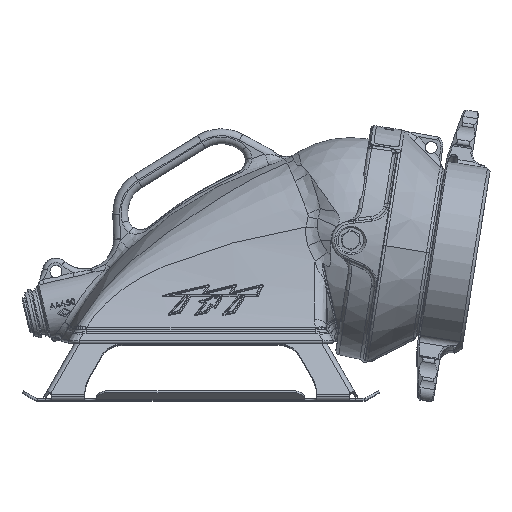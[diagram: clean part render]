
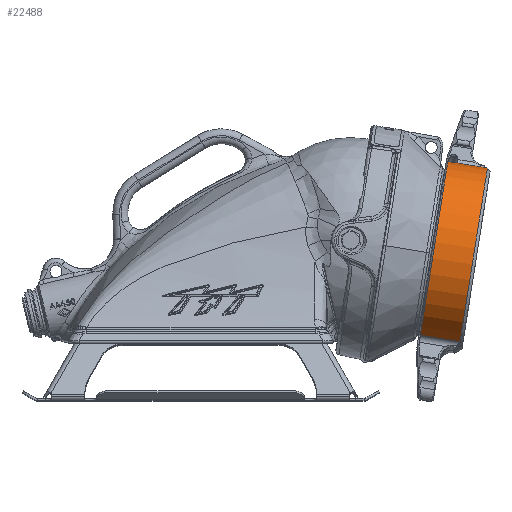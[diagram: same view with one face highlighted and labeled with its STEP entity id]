
A CAD part, top view. The second image highlights one B-rep face of the part: STEP entity #22488.
In plain terms, the highlighted cylindrical face has radius 98.425 mm (diameter 196.85 mm), a partial arc.
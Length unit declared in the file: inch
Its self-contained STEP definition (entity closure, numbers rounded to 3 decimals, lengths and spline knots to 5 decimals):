
#569 = CARTESIAN_POINT ( 'NONE',  ( 2.89257, -3.95, 1.76661 ) ) ;
#1409 = DIRECTION ( 'NONE',  ( -0.15, -0.945, 0.292 ) ) ;
#2496 = LINE ( 'NONE', #58119, #24888 ) ;
#2626 = EDGE_CURVE ( 'NONE', #52628, #91645, #13446, .T. ) ;
#2752 = CARTESIAN_POINT ( 'NONE',  ( 4.25847, 3.23736, -0.296 ) ) ;
#3098 = EDGE_CURVE ( 'NONE', #59598, #41548, #88619, .T. ) ;
#6833 = CARTESIAN_POINT ( 'NONE',  ( 4.23219, 3.24095, -0.30338 ) ) ;
#8261 = AXIS2_PLACEMENT_3D ( 'NONE', #69232, #18702, #1409 ) ;
#9744 = VERTEX_POINT ( 'NONE', #15025 ) ;
#11172 = CARTESIAN_POINT ( 'NONE',  ( 4.26308, 3.23631, -0.30018 ) ) ;
#13446 = CIRCLE ( 'NONE', #13708, 3.875 ) ;
#13708 = AXIS2_PLACEMENT_3D ( 'NONE', #107610, #57020, #90630 ) ;
#13837 = VERTEX_POINT ( 'NONE', #93287 ) ;
#14932 = CARTESIAN_POINT ( 'NONE',  ( 4.23942, 3.24038, -0.29606 ) ) ;
#15025 = CARTESIAN_POINT ( 'NONE',  ( 4.24903, 3.23915, -0.29226 ) ) ;
#15305 = CARTESIAN_POINT ( 'NONE',  ( 4.24903, 3.23915, -0.29226 ) ) ;
#16030 = CARTESIAN_POINT ( 'NONE',  ( 4.24486, 3.23976, -0.29287 ) ) ;
#18702 = DIRECTION ( 'NONE',  ( -0.988, 0.156, 0. ) ) ;
#20763 = CARTESIAN_POINT ( 'NONE',  ( 4.25315, 3.23845, -0.29286 ) ) ;
#21308 = B_SPLINE_CURVE_WITH_KNOTS ( 'NONE', 3,
 ( #24483, #100490, #65790, #41413, #66512, #90571, #39956, #6833, #56954, #14932, #99015, #16030, #49930, #15305 ),
 .UNSPECIFIED., .F., .F.,
 ( 4, 2, 2, 2, 2, 2, 4 ),
 ( 0., 0.00252, 0.00378, 0.00441, 0.00473, 0.00488, 0.00504 ),
 .UNSPECIFIED. ) ;
#22488 = ADVANCED_FACE ( 'NONE', ( #52235 ), #78516, .T. ) ;
#22511 = ORIENTED_EDGE ( 'NONE', *, *, #2626, .T. ) ;
#24483 = CARTESIAN_POINT ( 'NONE',  ( 4.15651, 3.23675, -0.464 ) ) ;
#24888 = VECTOR ( 'NONE', #92819, 39.37008 ) ;
#25293 = ORIENTED_EDGE ( 'NONE', *, *, #62019, .F. ) ;
#26513 = ORIENTED_EDGE ( 'NONE', *, *, #43918, .F. ) ;
#26897 = CARTESIAN_POINT ( 'NONE',  ( 5.85929, 2.96705, -0.464 ) ) ;
#36249 = CARTESIAN_POINT ( 'NONE',  ( 4.25109, 3.23882, -0.29226 ) ) ;
#37331 = CARTESIAN_POINT ( 'NONE',  ( 4.28839, 3.22878, -0.34227 ) ) ;
#39956 = CARTESIAN_POINT ( 'NONE',  ( 4.22481, 3.24131, -0.31338 ) ) ;
#40706 = DIRECTION ( 'NONE',  ( -0.15, -0.945, 0.292 ) ) ;
#41413 = CARTESIAN_POINT ( 'NONE',  ( 4.20113, 3.24123, -0.35722 ) ) ;
#41548 = VERTEX_POINT ( 'NONE', #65499 ) ;
#43918 = EDGE_CURVE ( 'NONE', #59598, #97423, #88360, .T. ) ;
#49930 = CARTESIAN_POINT ( 'NONE',  ( 4.24694, 3.23948, -0.29226 ) ) ;
#52235 = FACE_OUTER_BOUND ( 'NONE', #72961, .T. ) ;
#52628 = VERTEX_POINT ( 'NONE', #67052 ) ;
#53583 = CARTESIAN_POINT ( 'NONE',  ( 4.25683, 3.23772, -0.29475 ) ) ;
#53928 = CARTESIAN_POINT ( 'NONE',  ( 4.71794, -4.23911, 1.76661 ) ) ;
#53946 = CARTESIAN_POINT ( 'NONE',  ( 4.27682, 3.23248, -0.32059 ) ) ;
#55732 = ORIENTED_EDGE ( 'NONE', *, *, #108141, .T. ) ;
#56954 = CARTESIAN_POINT ( 'NONE',  ( 4.2348, 3.24079, -0.30018 ) ) ;
#57020 = DIRECTION ( 'NONE',  ( 0.988, -0.156, 0. ) ) ;
#58119 = CARTESIAN_POINT ( 'NONE',  ( 5.85929, 2.96705, -0.464 ) ) ;
#59598 = VERTEX_POINT ( 'NONE', #104303 ) ;
#61428 = B_SPLINE_CURVE_WITH_KNOTS ( 'NONE', 3,
 ( #96393, #36249, #20763, #53583, #2752, #11172, #79081, #70179, #53946, #37331, #78705, #86816, #62435, #95312 ),
 .UNSPECIFIED., .F., .F.,
 ( 4, 2, 2, 2, 2, 2, 4 ),
 ( 0.00504, 0.0052, 0.00535, 0.00567, 0.00629, 0.00754, 0.01003 ),
 .UNSPECIFIED. ) ;
#62019 = EDGE_CURVE ( 'NONE', #97423, #91645, #97909, .T. ) ;
#62435 = CARTESIAN_POINT ( 'NONE',  ( 4.32595, 3.2137, -0.43297 ) ) ;
#65499 = CARTESIAN_POINT ( 'NONE',  ( 4.33627, 3.20828, -0.464 ) ) ;
#65790 = CARTESIAN_POINT ( 'NONE',  ( 4.1804, 3.24011, -0.4023 ) ) ;
#66162 = VECTOR ( 'NONE', #85977, 39.37008 ) ;
#66512 = CARTESIAN_POINT ( 'NONE',  ( 4.20835, 3.24145, -0.34233 ) ) ;
#67052 = CARTESIAN_POINT ( 'NONE',  ( 4.03391, 3.25616, -0.464 ) ) ;
#69232 = CARTESIAN_POINT ( 'NONE',  ( 5.25747, -0.8327, 0. ) ) ;
#70179 = CARTESIAN_POINT ( 'NONE',  ( 4.27274, 3.23372, -0.3134 ) ) ;
#71341 = AXIS2_PLACEMENT_3D ( 'NONE', #73947, #83913, #40706 ) ;
#72961 = EDGE_LOOP ( 'NONE', ( #75803, #55732, #22511, #25293, #26513, #102279, #80521 ) ) ;
#73947 = CARTESIAN_POINT ( 'NONE',  ( 5.08462, -0.80532, 0. ) ) ;
#75803 = ORIENTED_EDGE ( 'NONE', *, *, #80740, .F. ) ;
#78516 = CYLINDRICAL_SURFACE ( 'NONE', #8261, 3.875 ) ;
#78705 = CARTESIAN_POINT ( 'NONE',  ( 4.29519, 3.22634, -0.35715 ) ) ;
#79081 = CARTESIAN_POINT ( 'NONE',  ( 4.26561, 3.23565, -0.3034 ) ) ;
#80521 = ORIENTED_EDGE ( 'NONE', *, *, #89891, .F. ) ;
#80740 = EDGE_CURVE ( 'NONE', #13837, #9744, #21308, .T. ) ;
#82179 = VECTOR ( 'NONE', #96735, 39.37008 ) ;
#83913 = DIRECTION ( 'NONE',  ( 0.988, -0.156, 0. ) ) ;
#85977 = DIRECTION ( 'NONE',  ( -0.988, 0.156, 0. ) ) ;
#86816 = CARTESIAN_POINT ( 'NONE',  ( 4.31457, 3.21887, -0.40223 ) ) ;
#88360 = CIRCLE ( 'NONE', #71341, 3.875 ) ;
#88619 = LINE ( 'NONE', #26897, #66162 ) ;
#88989 = CARTESIAN_POINT ( 'NONE',  ( 4.5451, -4.21174, 1.76661 ) ) ;
#89891 = EDGE_CURVE ( 'NONE', #9744, #41548, #61428, .T. ) ;
#90571 = CARTESIAN_POINT ( 'NONE',  ( 4.22055, 3.24139, -0.32057 ) ) ;
#90630 = DIRECTION ( 'NONE',  ( 0.15, 0.945, -0.292 ) ) ;
#91645 = VERTEX_POINT ( 'NONE', #569 ) ;
#92819 = DIRECTION ( 'NONE',  ( -0.988, 0.156, 0. ) ) ;
#93287 = CARTESIAN_POINT ( 'NONE',  ( 4.15651, 3.23675, -0.464 ) ) ;
#95312 = CARTESIAN_POINT ( 'NONE',  ( 4.33627, 3.20828, -0.464 ) ) ;
#96393 = CARTESIAN_POINT ( 'NONE',  ( 4.24903, 3.23915, -0.29226 ) ) ;
#96735 = DIRECTION ( 'NONE',  ( -0.988, 0.156, 0. ) ) ;
#97423 = VERTEX_POINT ( 'NONE', #88989 ) ;
#97909 = LINE ( 'NONE', #53928, #82179 ) ;
#99015 = CARTESIAN_POINT ( 'NONE',  ( 4.24113, 3.24021, -0.29477 ) ) ;
#100490 = CARTESIAN_POINT ( 'NONE',  ( 4.16801, 3.23872, -0.43296 ) ) ;
#102279 = ORIENTED_EDGE ( 'NONE', *, *, #3098, .T. ) ;
#104303 = CARTESIAN_POINT ( 'NONE',  ( 5.68644, 2.99443, -0.464 ) ) ;
#107610 = CARTESIAN_POINT ( 'NONE',  ( 3.43209, -0.54359, 0. ) ) ;
#108141 = EDGE_CURVE ( 'NONE', #13837, #52628, #2496, .T. ) ;
